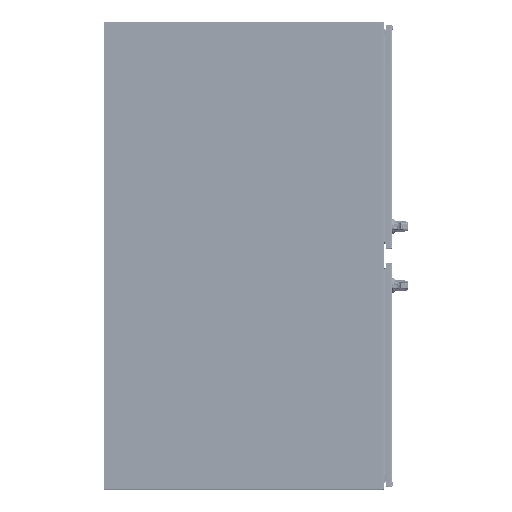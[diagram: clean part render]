
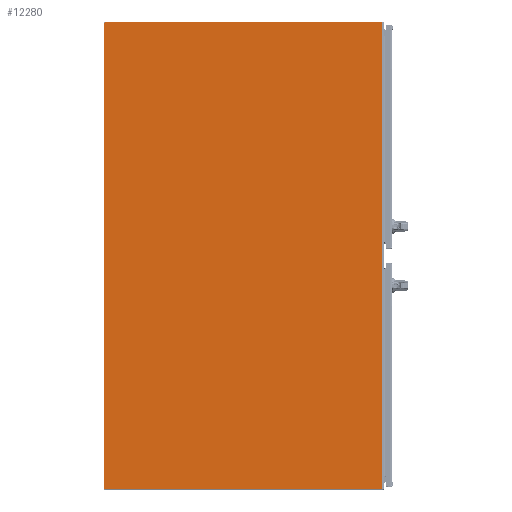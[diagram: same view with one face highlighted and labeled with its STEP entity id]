
A CAD part, top view. The second image highlights one B-rep face of the part: STEP entity #12280.
In plain terms, the highlighted planar face has unit normal (0, 0, 1) as drawn and (0, 1, 0) by its records, which use the part's own axes.
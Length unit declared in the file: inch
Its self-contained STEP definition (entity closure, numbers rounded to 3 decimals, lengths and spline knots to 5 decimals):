
#10592=CARTESIAN_POINT('',(-35.8855,0.,-29.8855));
#10593=DIRECTION('',(0.,1.,0.));
#10594=DIRECTION('',(0.,0.,-1.));
#10595=AXIS2_PLACEMENT_3D('',#10592,#10593,#10594);
#10600=CARTESIAN_POINT('',(-35.8855,0.,29.8855));
#10601=DIRECTION('',(0.,1.,0.));
#10602=DIRECTION('',(-1.,0.,0.));
#10603=AXIS2_PLACEMENT_3D('',#10600,#10601,#10602);
#10615=DIRECTION('',(0.,0.,-1.));
#10616=VECTOR('',#10615,59.771);
#10617=CARTESIAN_POINT('',(-35.948,0.,29.8855));
#10618=LINE('',#10617,#10616);
#10643=DIRECTION('',(-1.,0.,0.));
#10644=VECTOR('',#10643,35.6595);
#10645=CARTESIAN_POINT('',(-0.226,0.,29.948));
#10646=LINE('',#10645,#10644);
#10686=DIRECTION('',(0.,0.,1.));
#10687=VECTOR('',#10686,59.896);
#10688=CARTESIAN_POINT('',(-0.226,0.,-29.948));
#10689=LINE('',#10688,#10687);
#11055=DIRECTION('',(-1.,0.,0.));
#11056=VECTOR('',#11055,35.6595);
#11057=CARTESIAN_POINT('',(-0.226,0.,-29.948));
#11058=LINE('',#11057,#11056);
#12029=CARTESIAN_POINT('',(-35.8855,0.,-29.948));
#12030=CARTESIAN_POINT('',(-35.948,0.,-29.8855));
#12031=VERTEX_POINT('',#12029);
#12032=VERTEX_POINT('',#12030);
#12037=CARTESIAN_POINT('',(-35.948,0.,29.8855));
#12038=CARTESIAN_POINT('',(-35.8855,0.,29.948));
#12039=VERTEX_POINT('',#12037);
#12040=VERTEX_POINT('',#12038);
#12053=CARTESIAN_POINT('',(-0.226,0.,29.948));
#12054=VERTEX_POINT('',#12053);
#12055=CARTESIAN_POINT('',(-0.226,0.,-29.948));
#12056=VERTEX_POINT('',#12055);
#12261=CARTESIAN_POINT('',(0.,0.,29.948));
#12262=DIRECTION('',(0.,1.,0.));
#12263=DIRECTION('',(-1.,0.,0.));
#12264=AXIS2_PLACEMENT_3D('',#12261,#12262,#12263);
#12265=PLANE('',#12264);
#12267=ORIENTED_EDGE('',*,*,#12266,.F.);
#12269=ORIENTED_EDGE('',*,*,#12268,.F.);
#12271=ORIENTED_EDGE('',*,*,#12270,.T.);
#12273=ORIENTED_EDGE('',*,*,#12272,.T.);
#12275=ORIENTED_EDGE('',*,*,#12274,.F.);
#12277=ORIENTED_EDGE('',*,*,#12276,.T.);
#12278=EDGE_LOOP('',(#12267,#12269,#12271,#12273,#12275,#12277));
#12279=FACE_OUTER_BOUND('',#12278,.F.);
#10596=CIRCLE('',#10595,0.0625);
#10604=CIRCLE('',#10603,0.0625);
#12266=EDGE_CURVE('',#12031,#12032,#10596,.T.);
#12268=EDGE_CURVE('',#12056,#12031,#11058,.T.);
#12270=EDGE_CURVE('',#12056,#12054,#10689,.T.);
#12272=EDGE_CURVE('',#12054,#12040,#10646,.T.);
#12274=EDGE_CURVE('',#12039,#12040,#10604,.T.);
#12276=EDGE_CURVE('',#12039,#12032,#10618,.T.);
#12280=ADVANCED_FACE('',(#12279),#12265,.T.);
